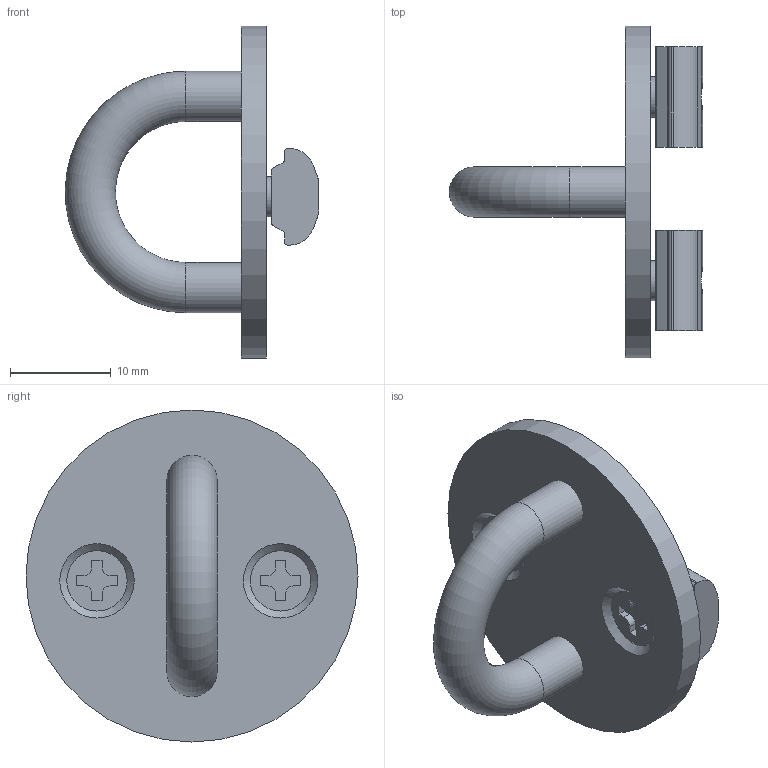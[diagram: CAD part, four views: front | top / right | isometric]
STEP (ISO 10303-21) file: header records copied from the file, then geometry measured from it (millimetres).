
FILE_DESCRIPTION(('STEP AP214'),'1');
FILE_NAME('RI5-25B.stp','2017-03-03T08:20:07',(' '),(' '),'Spatial InterOp 3D',' ',' ');
FILE_SCHEMA(('automotive_design'));
Length unit declared in the file: millimetre
Products named in the file (6): RI5-25B; RI5-H; M4*6小頭皿ﾈｼﾞ; NF25-M4
Assembly tree (5 placements, depth 2):
  RI5-25B
    RI5-H
    M4*6小頭皿ﾈｼﾞ
    NF25-M4
    M4*6小頭皿ﾈｼﾞ
    NF25-M4
Bounding box: 25.19 x 33 x 33 mm (x, y, z)
Volume: 3583.7 mm3; surface area: 3536.9 mm2
Topology: 5 solids, 5 shells, 104 faces, 277 edges, 183 vertices
Faces by surface type: plane 58, cylinder 41, cone 4, torus 1
Full cylindrical faces by diameter (mm): 4 x4, 4.2 x2, 5 x2, 33 x1
Entity records: 4151 total; most frequent: CARTESIAN_POINT 590, DIRECTION 556, ORIENTED_EDGE 520, EDGE_CURVE 260, AXIS2_PLACEMENT_3D 194, VERTEX_POINT 180, LINE 168, VECTOR 168
